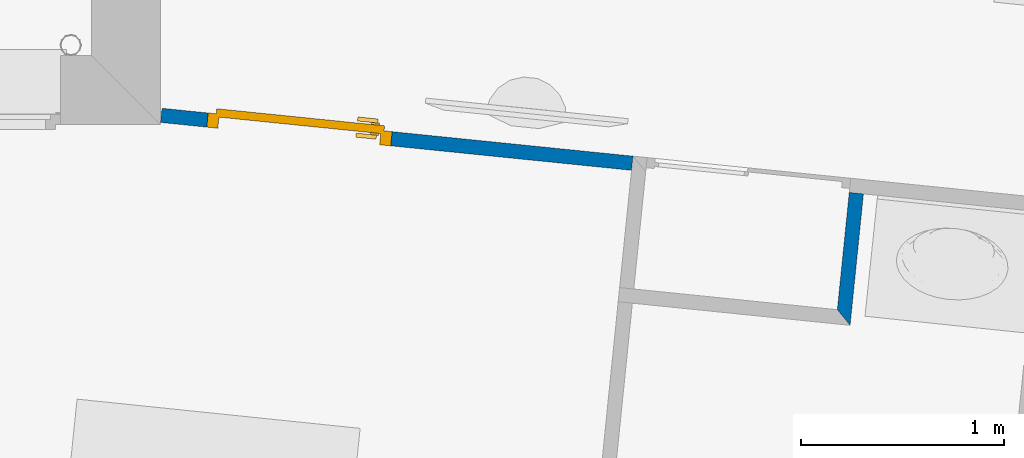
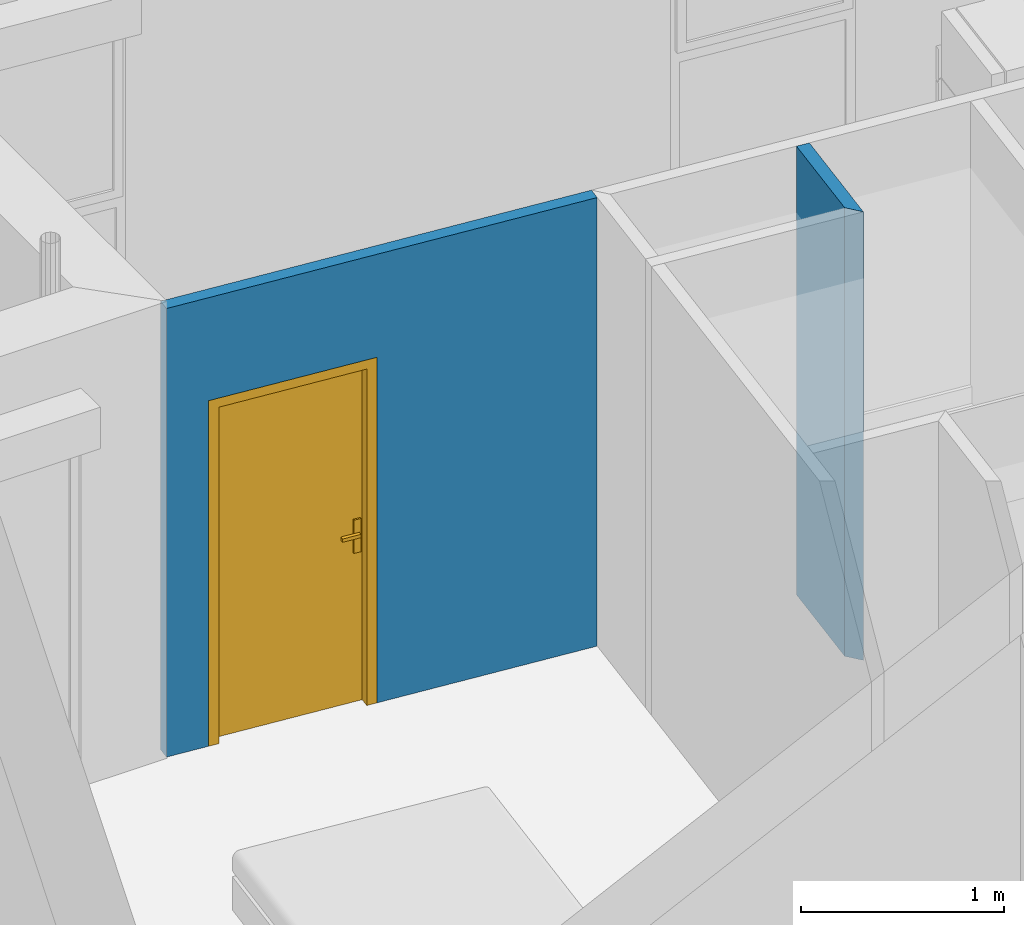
# One storey, part 68 of 171: 2 walls, 1 door, 1 opening.
"""IFC2X3 building model written with IfcOpenShell, lengths in millimetres."""

import ifcopenshell
import ifcopenshell.guid

model = None  # the IFC model being written
_history = None  # IfcOwnerHistory: only IFC2X3 demands one
_inside = {}  # id of a spatial element -> (the spatial element, [elements in it])
_under = {}  # id of a project, library or spatial element -> (it, [spatial elements below it])
_declared = {}  # id of a project -> (the project, [libraries it declares])
_typed = {}  # id of a type object -> (the type object, [elements of that type])
_made_of = {}  # id of a material, layer set ... -> (it, [elements and type objects made of it])


def new_model(schema):
    """Start an empty IFC model of exactly this schema.

    Asked for "IFC4X3", IfcOpenShell would pick the latest addendum, in which some entities
    have other attributes; the version numbers below select the first issue.
    IFC2X3 requires an IfcOwnerHistory on every rooted entity: one is made here for all.
    """
    global model, _history
    if schema == "IFC4X3":
        model = ifcopenshell.file(schema_version=(4, 3, 0, 0))
    else:
        model = ifcopenshell.file(schema=schema)
    _inside.clear()
    _under.clear()
    _declared.clear()
    _typed.clear()
    _made_of.clear()
    _history = None
    if model.schema == "IFC2X3":
        org = make("IfcOrganization", Name="unknown")
        user = make(
            "IfcPersonAndOrganization",
            ThePerson=make("IfcPerson", FamilyName="unknown"),
            TheOrganization=org,
        )
        app = make(
            "IfcApplication",
            ApplicationDeveloper=org,
            Version="unknown",
            ApplicationFullName="unknown",
            ApplicationIdentifier="unknown",
        )
        _history = make(
            "IfcOwnerHistory",
            OwningUser=user,
            OwningApplication=app,
            ChangeAction="ADDED",
            CreationDate=0,
        )
    return model


def make(cls, **values):
    """One entity of the class cls with the attributes given. An attribute that is None is left unset."""
    return model.create_entity(
        cls, **{name: value for name, value in values.items() if value is not None}
    )


def entity(cls, *values):
    """Any entity or typed value of the class cls, its attributes in the order of the schema. None: left unset."""
    e = model.create_entity(cls)
    for i, value in enumerate(values):
        if value is not None:
            e[i] = value
    return e


def rooted(cls, **values):
    """An entity with a GlobalId (a new one), such as an element, a storey or a relation."""
    return make(cls, GlobalId=ifcopenshell.guid.new(), OwnerHistory=_history, **values)


def si_unit(unit_type, name, prefix=None):
    """IfcSIUnit, for example si_unit("LENGTHUNIT", "METRE", prefix="MILLI")."""
    return make("IfcSIUnit", UnitType=unit_type, Prefix=prefix, Name=name)


def converted_unit(unit_type, name, factor, base, dimensions=None, offset=None):
    """IfcConversionBasedUnit, such as the inch: factor (a typed value) times the base unit."""
    return make(
        "IfcConversionBasedUnit"
        if offset is None
        else "IfcConversionBasedUnitWithOffset",
        ConversionOffset=offset,
        Dimensions=None
        if dimensions is None
        else entity("IfcDimensionalExponents", *dimensions),
        UnitType=unit_type,
        Name=name,
        ConversionFactor=make(
            "IfcMeasureWithUnit", ValueComponent=factor, UnitComponent=base
        ),
    )


def derived_unit(unit_type, elements):
    """IfcDerivedUnit: a product of units, each with its exponent."""
    return make(
        "IfcDerivedUnit",
        Elements=[
            make("IfcDerivedUnitElement", Unit=unit, Exponent=power)
            for unit, power in elements
        ],
        UnitType=unit_type,
    )


def money_unit(currency):
    """IfcMonetaryUnit."""
    return make("IfcMonetaryUnit", Currency=currency)


def assignment(units):
    """IfcUnitAssignment: the units of a project."""
    return None if units is None else make("IfcUnitAssignment", Units=units)


def point(xyz):
    """IfcCartesianPoint."""
    return None if xyz is None else make("IfcCartesianPoint", Coordinates=xyz)


def direction(xyz):
    """IfcDirection."""
    return None if xyz is None else make("IfcDirection", DirectionRatios=xyz)


def frame(location, z_axis=None, x_axis=None):
    """IfcAxis2Placement3D, a coordinate frame: its origin and axes. An axis left out is left unset."""
    return make(
        "IfcAxis2Placement3D",
        Location=point(location),
        Axis=direction(z_axis),
        RefDirection=direction(x_axis),
    )


def frame_2d(location, x_axis=None):
    """IfcAxis2Placement2D, a coordinate frame in the plane: its origin and x axis."""
    return make(
        "IfcAxis2Placement2D", Location=point(location), RefDirection=direction(x_axis)
    )


def origin_with_axes():
    """The frame at (0, 0, 0) with the z axis (0, 0, 1) and the x axis (1, 0, 0) written out."""
    return frame((0.0, 0.0, 0.0), z_axis=(0.0, 0.0, 1.0), x_axis=(1.0, 0.0, 0.0))


def origin_2d_with_axis():
    """The frame at (0, 0) in the plane with the x axis (1, 0) written out."""
    return frame_2d((0.0, 0.0), x_axis=(1.0, 0.0))


def place(relative_to, where):
    """IfcLocalPlacement: puts the frame where relative to a parent placement (None: the world)."""
    return make(
        "IfcLocalPlacement", PlacementRelTo=relative_to, RelativePlacement=where
    )


def context(
    kind, dimensions, precision=None, world=None, true_north=None, identifier=None
):
    """IfcGeometricRepresentationContext, for example the 3D "Model" context."""
    return make(
        "IfcGeometricRepresentationContext",
        ContextIdentifier=identifier,
        ContextType=kind,
        CoordinateSpaceDimension=dimensions,
        Precision=precision,
        WorldCoordinateSystem=world,
        TrueNorth=true_north,
    )


def subcontext(parent, identifier, kind, view, scale=None):
    """IfcGeometricRepresentationSubContext, for example "Body" below "Model"."""
    return make(
        "IfcGeometricRepresentationSubContext",
        ContextIdentifier=identifier,
        ContextType=kind,
        ParentContext=parent,
        TargetScale=scale,
        TargetView=view,
    )


def project(units=None, contexts=None):
    """IfcProject with its units and contexts."""
    return rooted(
        "IfcProject",
        Name="project",
        RepresentationContexts=contexts,
        UnitsInContext=assignment(units),
    )


def spatial(cls, under=None, at=None, **own):
    """A site, building, storey or space (cls), placed at a placement, below another one or the project."""
    s = rooted(cls, ObjectPlacement=at, **own)
    if under is not None:
        _under.setdefault(under.id(), (under, []))[1].append(s)
    return s


def polyline(points):
    """IfcPolyline through the points."""
    return make("IfcPolyline", Points=[point(p) for p in points])


def profile(cls, at=None, kind="AREA", **sizes):
    """A parametric profile (cls). Its sizes go by their IFC names, for example OverallWidth=200.0."""
    return make(cls, ProfileType=kind, Position=at, **sizes)


def rectangle(**sizes):
    """IfcRectangleProfileDef."""
    return profile("IfcRectangleProfileDef", **sizes)


def outline(outer, holes=None, kind="AREA"):
    """IfcArbitraryClosedProfileDef: a profile drawn as a closed curve; with holes, ...WithVoids."""
    if holes is None:
        return make("IfcArbitraryClosedProfileDef", ProfileType=kind, OuterCurve=outer)
    return make(
        "IfcArbitraryProfileDefWithVoids",
        ProfileType=kind,
        OuterCurve=outer,
        InnerCurves=holes,
    )


def extrude(swept, where, along, depth):
    """IfcExtrudedAreaSolid: the profile swept, set in the frame where, extruded along a direction by depth."""
    return make(
        "IfcExtrudedAreaSolid",
        SweptArea=swept,
        Position=where,
        ExtrudedDirection=direction(along),
        Depth=depth,
    )


def faces_of(points, faces, orient=None, outer=None):
    """IfcFace entities. A face is a list of loops; a loop is a list of indices into points, from 0.

    orient and outer hold one flag for each loop. By default every Orientation is true, the
    first loop of a face is its IfcFaceOuterBound and the others are IfcFaceBound.
    """
    made = []
    for i, loops in enumerate(faces):
        bounds = []
        for j, loop in enumerate(loops):
            is_outer = j == 0 if outer is None else outer[i][j]
            bounds.append(
                make(
                    "IfcFaceOuterBound" if is_outer else "IfcFaceBound",
                    Bound=make("IfcPolyLoop", Polygon=[points[k] for k in loop]),
                    Orientation=True if orient is None else orient[i][j],
                )
            )
        made.append(make("IfcFace", Bounds=bounds))
    return made


def faceted_brep(points, faces, orient=None, outer=None, voids=None):
    """IfcFacetedBrep: a solid bounded by flat faces; with voids (closed shells), ...WithVoids."""
    shared = [point(p) for p in points]
    hull = make("IfcClosedShell", CfsFaces=faces_of(shared, faces, orient, outer))
    if voids is None:
        return make("IfcFacetedBrep", Outer=hull)
    return make(
        "IfcFacetedBrepWithVoids",
        Outer=hull,
        Voids=[
            make(cls, CfsFaces=faces_of(shared, fs, o, b)) for cls, fs, o, b in voids
        ],
    )


def shape(context_of_items, identifier, shape_type, items):
    """IfcShapeRepresentation: the items that make up one representation, for example the "Body"."""
    return make(
        "IfcShapeRepresentation",
        ContextOfItems=context_of_items,
        RepresentationIdentifier=identifier,
        RepresentationType=shape_type,
        Items=items,
    )


def source(mapping_origin, context_of_items, identifier, shape_type, items):
    """IfcRepresentationMap: a shape defined once, which mapped items show again and again."""
    return make(
        "IfcRepresentationMap",
        MappingOrigin=mapping_origin,
        MappedRepresentation=shape(context_of_items, identifier, shape_type, items),
    )


def transform(
    local_origin,
    x_axis=None,
    y_axis=None,
    z_axis=None,
    scale=None,
    scale2=None,
    scale3=None,
    uniform=True,
):
    """IfcCartesianTransformationOperator3D, or its non-uniform kind. x_axis, y_axis, z_axis: its Axis1, 2, 3."""
    if uniform:
        return make(
            "IfcCartesianTransformationOperator3D",
            Axis1=direction(x_axis),
            Axis2=direction(y_axis),
            LocalOrigin=point(local_origin),
            Scale=scale,
            Axis3=direction(z_axis),
        )
    return make(
        "IfcCartesianTransformationOperator3DnonUniform",
        Axis1=direction(x_axis),
        Axis2=direction(y_axis),
        LocalOrigin=point(local_origin),
        Scale=scale,
        Axis3=direction(z_axis),
        Scale2=scale2,
        Scale3=scale3,
    )


def mapped(mapping_source, mapping_target):
    """IfcMappedItem: shows the shape of a source again, moved by a transform."""
    return make(
        "IfcMappedItem", MappingSource=mapping_source, MappingTarget=mapping_target
    )


def material(Name=None, Category=None):
    """IfcMaterial."""
    return make("IfcMaterial", Name=Name, Category=Category)


def layer(
    of_material, thickness, ventilated=None, Name=None, Category=None, Priority=None
):
    """IfcMaterialLayer: one layer of a wall or slab, of a material (None: an air gap)."""
    return make(
        "IfcMaterialLayer",
        Material=of_material,
        LayerThickness=thickness,
        IsVentilated=ventilated,
        Name=Name,
        Category=Category,
        Priority=Priority,
    )


def layer_set(layers, Name=None):
    """IfcMaterialLayerSet."""
    return make("IfcMaterialLayerSet", MaterialLayers=layers, LayerSetName=Name)


def layer_usage(for_layer_set, set_direction, sense, offset, extent=None):
    """IfcMaterialLayerSetUsage: how a layer set lies in its element."""
    return make(
        "IfcMaterialLayerSetUsage",
        ForLayerSet=for_layer_set,
        LayerSetDirection=set_direction,
        DirectionSense=sense,
        OffsetFromReferenceLine=offset,
        ReferenceExtent=extent,
    )


def made_of(thing, what):
    """Note that an element or type object is made of a material, layer set ...; save() writes the relation."""
    if what is not None:
        _made_of.setdefault(what.id(), (what, []))[1].append(thing)
    return thing


def type_object(cls, material=None, **own):
    """A type object (cls), such as IfcWallType, which elements share."""
    return made_of(rooted(cls, **own), material)


def element(
    cls,
    number,
    at=None,
    inside=None,
    cuts=None,
    type_object=None,
    material=None,
    context=None,
    identifier="Body",
    shape_type=None,
    held_by="IfcProductDefinitionShape",
    body=None,
    shapes=None,
    **own,
):
    """One element of the class cls, such as IfcWall. Its Tag is "e" and its number.

    at: its placement. inside: the storey or other place that contains it. cuts: it is an
    opening in that element (IfcRelVoidsElement). A single representation is given by context,
    identifier, shape_type and body (its items); several are given by shapes. held_by: the class
    of the entity that holds the representations. save() writes the other relations.
    """
    e = rooted(cls, Tag="e%d" % number, ObjectPlacement=at, **own)
    if body is not None:
        shapes = [shape(context, identifier, shape_type, body)]
    if shapes is not None:
        e.Representation = make(held_by, Representations=shapes)
    if inside is not None:
        _inside.setdefault(inside.id(), (inside, []))[1].append(e)
    if cuts is not None:
        rooted(
            "IfcRelVoidsElement", RelatingBuildingElement=cuts, RelatedOpeningElement=e
        )
    if type_object is not None:
        _typed.setdefault(type_object.id(), (type_object, []))[1].append(e)
    return made_of(e, material)


def fill(opening, filler):
    """IfcRelFillsElement: the door or window that sits in an opening."""
    return rooted(
        "IfcRelFillsElement",
        RelatingOpeningElement=opening,
        RelatedBuildingElement=filler,
    )


def aggregate(whole, parts):
    """IfcRelAggregates: a whole, such as a stair, and the parts it consists of."""
    return rooted("IfcRelAggregates", RelatingObject=whole, RelatedObjects=parts)


def save(model, path):
    """Write the relations noted so far, then the file.

    IfcRelAggregates (storeys below a building ...), IfcRelContainedInSpatialStructure (elements
    in a storey), IfcRelDefinesByType, IfcRelAssociatesMaterial and IfcRelDeclares: one each for
    every whole, place, type object, material and project.
    """
    for whole, parts in _under.values():
        aggregate(whole, parts)
    for where, things in _inside.values():
        rooted(
            "IfcRelContainedInSpatialStructure",
            RelatedElements=things,
            RelatingStructure=where,
        )
    for kind, things in _typed.values():
        rooted("IfcRelDefinesByType", RelatedObjects=things, RelatingType=kind)
    for what, things in _made_of.values():
        rooted("IfcRelAssociatesMaterial", RelatedObjects=things, RelatingMaterial=what)
    for by, libraries in _declared.values():
        rooted("IfcRelDeclares", RelatingContext=by, RelatedDefinitions=libraries)
    model.write(path)


model = new_model("IFC2X3")

# Units and contexts
model_context = context("Model", 3, precision=0.01, world=origin_with_axes(), true_north=direction((0.0, 1.0)))
body_context = subcontext(model_context, "Body", "Model", "MODEL_VIEW")
ifc_project = project(units=[si_unit("LENGTHUNIT", "METRE", prefix="MILLI"), si_unit("AREAUNIT", "SQUARE_METRE"), si_unit("VOLUMEUNIT", "CUBIC_METRE"), converted_unit("PLANEANGLEUNIT", "DEGREE", entity("IfcPlaneAngleMeasure", 0.0174532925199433), si_unit("PLANEANGLEUNIT", "RADIAN"), dimensions=[0, 0, 0, 0, 0, 0, 0]), money_unit("USD"), converted_unit("TIMEUNIT", "Year", entity("IfcTimeMeasure", 31557600.0), si_unit("TIMEUNIT", "SECOND"), dimensions=[0, 0, 1, 0, 0, 0, 0]), si_unit("MASSUNIT", "GRAM", prefix="KILO"), si_unit("THERMODYNAMICTEMPERATUREUNIT", "DEGREE_CELSIUS"), si_unit("LUMINOUSINTENSITYUNIT", "LUMEN"), si_unit("ENERGYUNIT", "JOULE", prefix="MEGA"), derived_unit("THERMALCONDUCTANCEUNIT", [(si_unit("POWERUNIT", "WATT"), 1), (si_unit("LENGTHUNIT", "METRE"), -1), (si_unit("THERMODYNAMICTEMPERATUREUNIT", "KELVIN"), -1)]), derived_unit("SPECIFICHEATCAPACITYUNIT", [(si_unit("ENERGYUNIT", "JOULE"), 1), (si_unit("MASSUNIT", "GRAM", prefix="KILO"), -1), (si_unit("THERMODYNAMICTEMPERATUREUNIT", "KELVIN"), -1)]), derived_unit("MASSDENSITYUNIT", [(si_unit("MASSUNIT", "GRAM", prefix="KILO"), 1), (si_unit("VOLUMEUNIT", "CUBIC_METRE"), -1)])], contexts=[model_context])

# Site, building, storey
site_placement = place(None, origin_with_axes())
site = spatial("IfcSite", under=ifc_project, at=site_placement, Name="Site", CompositionType="ELEMENT")
building_placement = place(site_placement, origin_with_axes())
building = spatial("IfcBuilding", under=site, at=building_placement, Name="Bâtiment", CompositionType="ELEMENT")
storey_placement = place(building_placement, frame((0.0, 0.0, 3000.0), z_axis=(0.0, 0.0, 1.0), x_axis=(1.0, 0.0, 0.0)))
storey = spatial("IfcBuildingStorey", under=building, at=storey_placement, Name="rdc", CompositionType="ELEMENT", Elevation=3000.0)

# Wall
ifc_material = material(Name="Hachure solide 268963992")
ifc_layer = layer(ifc_material, 70.0, ventilated="UNKNOWN")
ifc_layer_set = layer_set([ifc_layer], Name="Cloison 70 0826278243")
ifc_layer_usage_1 = layer_usage(ifc_layer_set, "AXIS2", "NEGATIVE", 70.0)
wall_type = type_object("IfcWallType", Name="Cloison 70 0826278243 70", PredefinedType="NOTDEFINED")
wall_1_placement = place(storey_placement, frame((2221874.634386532, -608425.7749493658, 0.0), z_axis=(0.0, 0.0, 1.0), x_axis=(0.1011032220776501, 0.9948759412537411, 0.0)))
element("IfcWallStandardCase", 1, at=wall_1_placement, inside=storey, type_object=wall_type, material=ifc_layer_usage_1, Name="Mur-149", context=body_context, shape_type="SweptSolid", body=[
    extrude(outline(polyline([(-69.99999999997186, 0.0), (580.0000000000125, 0.0), (579.9999999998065, 69.99999999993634), (-1.77635683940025e-10, 70.00000000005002), (-69.99999999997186, 0.0)])), origin_with_axes(), (0.0, 0.0, 1.0), 2700.0),
])

# Wall, opening, door
ifc_layer_usage_2 = layer_usage(ifc_layer_set, "AXIS2", "NEGATIVE", 70.0)
wall_2_placement = place(storey_placement, frame((2218475.255530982, -607497.3293843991, 0.0), z_axis=(0.0, 0.0, 1.0), x_axis=(0.9948759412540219, -0.1011032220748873, 0.0)))
wall_2 = element("IfcWallStandardCase", 2, at=wall_2_placement, inside=storey, type_object=wall_type, material=ifc_layer_usage_2, Name="Mur-149", context=body_context, shape_type="SweptSolid", body=[
    extrude(outline(polyline([(0.0, 0.0), (2329.009809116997, 0.0), (2329.009809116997, 69.99999999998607), (-1.13686837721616e-10, 69.99999999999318), (0.0, 0.0)])), origin_with_axes(), (0.0, 0.0, 1.0), 2700.0),
])
opening_placement = place(wall_2_placement, frame((683.1796629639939, 0.0, 0.0), z_axis=(0.0, 0.0, 1.0), x_axis=(1.0, 0.0, 0.0)))
opening = element("IfcOpeningElement", 3, at=opening_placement, cuts=wall_2, Name="Por-284", context=body_context, shape_type="SweptSolid", body=[
    extrude(rectangle(XDim=910.0, YDim=2080.0, at=origin_2d_with_axis()), frame((-1.13686837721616e-10, -70.0000000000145, 1040.0), z_axis=(0.0, -1.0, 0.0), x_axis=(-1.0, 0.0, 0.0)), (0.0, 0.0, -1.0), 140.0),
])
door_style = type_object("IfcDoorStyle", Name="Porte_1v", ConstructionType="NOTDEFINED", OperationType="NOTDEFINED", ParameterTakesPrecedence=False, Sizeable=False)
shared_shape = source(origin_with_axes(), body_context, "Body", "Brep", [
    faceted_brep([(-454.9999999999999, 0.0, 0.0), (-454.9999999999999, 0.0, 2080.0), (454.9999999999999, 0.0, 2080.0), (454.9999999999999, 0.0, 0.0), (414.9999999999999, 0.0, 0.0), (414.9999999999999, 0.0, 2040.0), (-414.9999999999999, 0.0, 2040.0), (-414.9999999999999, 0.0, 0.0), (-454.9999999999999, -69.99999999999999, 0.0), (-454.9999999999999, -69.99999999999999, 2080.0), (454.9999999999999, -69.99999999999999, 2080.0), (454.9999999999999, -69.99999999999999, 0.0), (399.9999999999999, -69.99999999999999, 0.0), (399.9999999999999, -15.0, 0.0), (414.9999999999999, -15.0, 0.0), (414.9999999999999, -15.0, 2040.0), (-414.9999999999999, -14.99999999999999, 2040.0), (-414.9999999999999, -14.99999999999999, 0.0), (-399.9999999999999, -14.99999999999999, 0.0), (-399.9999999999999, -69.99999999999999, 0.0), (-399.9999999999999, -69.99999999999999, 2025.0), (399.9999999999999, -69.99999999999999, 2025.0), (399.9999999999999, -15.0, 2025.0), (-399.9999999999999, -14.99999999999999, 2025.0)], [[[0, 1, 2, 3, 4, 5, 6, 7]], [[8, 9, 1, 0]], [[9, 10, 2, 1]], [[10, 11, 3, 2]], [[3, 11, 12, 13, 14, 4]], [[5, 4, 14, 15]], [[6, 5, 15, 16]], [[7, 6, 16, 17]], [[0, 7, 17, 18, 19, 8]], [[19, 20, 21, 12, 11, 10, 9, 8]], [[22, 13, 12, 21]], [[17, 16, 15, 14, 13, 22, 23, 18]], [[18, 23, 20, 19]], [[23, 22, 21, 20]]]),
    faceted_brep([(350.0, -15.0, 900.0), (350.0, -15.0, 1100.0), (389.9999999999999, -15.0, 1100.0), (389.9999999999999, -15.0, 900.0), (350.0, -25.0, 900.0), (350.0, -25.0, 1100.0), (389.9999999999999, -25.0, 1100.0), (389.9999999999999, -25.0, 900.0)], [[[0, 1, 2, 3]], [[0, 4, 5, 1]], [[1, 5, 6, 2]], [[2, 6, 7, 3]], [[3, 7, 4, 0]], [[7, 6, 5, 4]]]),
    faceted_brep([(279.9999999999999, -25.0, 1000.0), (279.9999999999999, -25.0, 1020.0), (379.9999999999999, -25.0, 1020.0), (379.9999999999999, -25.0, 1000.0), (279.9999999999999, -45.0, 1000.0), (279.9999999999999, -45.0, 1020.0), (379.9999999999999, -45.0, 1020.0), (379.9999999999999, -45.0, 1000.0)], [[[0, 1, 2, 3]], [[0, 4, 5, 1]], [[1, 5, 6, 2]], [[2, 6, 7, 3]], [[3, 7, 4, 0]], [[7, 6, 5, 4]]]),
    faceted_brep([(350.0, 34.99999999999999, 900.0), (350.0, 34.99999999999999, 1100.0), (389.9999999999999, 34.99999999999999, 1100.0), (389.9999999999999, 34.99999999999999, 900.0), (350.0, 24.99999999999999, 900.0), (350.0, 24.99999999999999, 1100.0), (389.9999999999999, 24.99999999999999, 1100.0), (389.9999999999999, 24.99999999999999, 900.0)], [[[0, 1, 2, 3]], [[0, 4, 5, 1]], [[1, 5, 6, 2]], [[2, 6, 7, 3]], [[3, 7, 4, 0]], [[7, 6, 5, 4]]]),
    faceted_brep([(279.9999999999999, 54.99999999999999, 1000.0), (279.9999999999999, 54.99999999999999, 1020.0), (379.9999999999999, 54.99999999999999, 1020.0), (379.9999999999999, 54.99999999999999, 1000.0), (279.9999999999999, 34.99999999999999, 1000.0), (279.9999999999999, 34.99999999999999, 1020.0), (379.9999999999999, 34.99999999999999, 1020.0), (379.9999999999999, 34.99999999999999, 1000.0)], [[[0, 1, 2, 3]], [[0, 4, 5, 1]], [[1, 5, 6, 2]], [[2, 6, 7, 3]], [[3, 7, 4, 0]], [[7, 6, 5, 4]]]),
    faceted_brep([(414.9999999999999, 24.99999999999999, 0.0), (414.9999999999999, -15.0, 0.0), (-414.9999999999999, -14.99999999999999, 0.0), (-414.9999999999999, 25.0, 0.0), (414.9999999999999, 24.99999999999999, 2040.0), (414.9999999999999, -15.0, 2040.0), (-414.9999999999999, -14.99999999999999, 2040.0), (-414.9999999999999, 25.0, 2040.0)], [[[0, 1, 2, 3]], [[4, 5, 1, 0]], [[1, 5, 6, 2]], [[3, 2, 6, 7]], [[0, 3, 7, 4]], [[7, 6, 5, 4]]]),
])
door_placement = place(opening_placement, frame((-415.000000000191, 0.0, 0.0), z_axis=(0.0, 0.0, 1.0), x_axis=(1.0, 0.0, 0.0)))
door = element("IfcDoor", 4, at=door_placement, inside=storey, type_object=door_style, Name="Por-284", OverallHeight=2040.0, OverallWidth=830.0, context=body_context, shape_type="MappedRepresentation", body=[
    mapped(shared_shape, transform((414.9999999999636, 70.00000000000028, 0.0))),
])
fill(opening, door)

save(model, "model.ifc")
